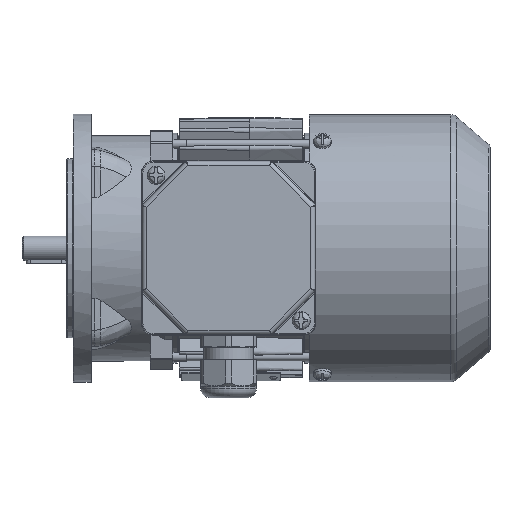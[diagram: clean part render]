
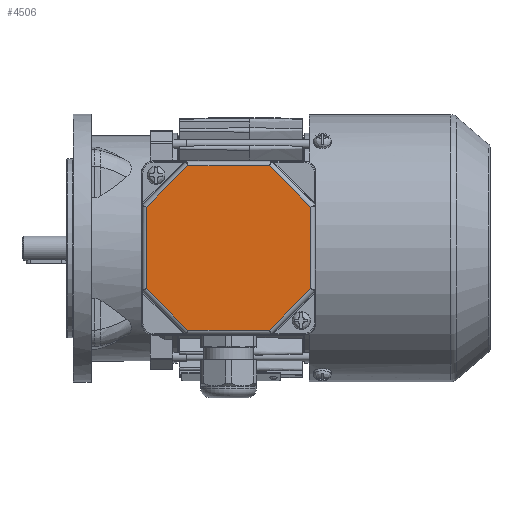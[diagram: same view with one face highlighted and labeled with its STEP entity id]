
A CAD part, top view. The second image highlights one B-rep face of the part: STEP entity #4506.
In plain terms, the highlighted planar face has unit normal (0, 0, 1).
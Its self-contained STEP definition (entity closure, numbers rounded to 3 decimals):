
#4506 = ADVANCED_FACE( '', ( #9431 ), #9432, .T. );
#9431 = FACE_OUTER_BOUND( '', #20780, .T. );
#9432 = PLANE( '', #20781 );
#20780 = EDGE_LOOP( '', ( #35208, #35209, #35210, #35211, #35212, #35213, #35214, #35215 ) );
#20781 = AXIS2_PLACEMENT_3D( '', #35216, #35217, #35218 );
#35208 = ORIENTED_EDGE( '', *, *, #43298, .T. );
#35209 = ORIENTED_EDGE( '', *, *, #46687, .T. );
#35210 = ORIENTED_EDGE( '', *, *, #43588, .T. );
#35211 = ORIENTED_EDGE( '', *, *, #46688, .T. );
#35212 = ORIENTED_EDGE( '', *, *, #42748, .T. );
#35213 = ORIENTED_EDGE( '', *, *, #45795, .T. );
#35214 = ORIENTED_EDGE( '', *, *, #46689, .T. );
#35215 = ORIENTED_EDGE( '', *, *, #46400, .T. );
#35216 = CARTESIAN_POINT( '', ( -39., 39., 12. ) );
#35217 = DIRECTION( '', ( 0., 0., 1. ) );
#35218 = DIRECTION( '', ( 1., 0., 0. ) );
#42748 = EDGE_CURVE( '', #49619, #49620, #49621, .F. );
#43298 = EDGE_CURVE( '', #50563, #50561, #50564, .F. );
#43588 = EDGE_CURVE( '', #49029, #51048, #51049, .F. );
#45795 = EDGE_CURVE( '', #49620, #54483, #54484, .T. );
#46400 = EDGE_CURVE( '', #55316, #50563, #55317, .T. );
#46687 = EDGE_CURVE( '', #50561, #49029, #55694, .T. );
#46688 = EDGE_CURVE( '', #51048, #49619, #55695, .T. );
#46689 = EDGE_CURVE( '', #54483, #55316, #55696, .F. );
#49029 = VERTEX_POINT( '', #58890 );
#49619 = VERTEX_POINT( '', #60351 );
#49620 = VERTEX_POINT( '', #60352 );
#49621 = LINE( '', #60353, #60354 );
#50561 = VERTEX_POINT( '', #62834 );
#50563 = VERTEX_POINT( '', #62836 );
#50564 = LINE( '', #62837, #62838 );
#51048 = VERTEX_POINT( '', #63945 );
#51049 = LINE( '', #63946, #63947 );
#54483 = VERTEX_POINT( '', #71180 );
#54484 = LINE( '', #71181, #71182 );
#55316 = VERTEX_POINT( '', #73236 );
#55317 = LINE( '', #73237, #73238 );
#55694 = LINE( '', #74067, #74068 );
#55695 = LINE( '', #74069, #74070 );
#55696 = LINE( '', #74071, #74072 );
#58890 = CARTESIAN_POINT( '', ( 18.255, 36.825, 12. ) );
#60351 = CARTESIAN_POINT( '', ( -36.825, 18.255, 12. ) );
#60352 = CARTESIAN_POINT( '', ( -36.825, -18.255, 12. ) );
#60353 = CARTESIAN_POINT( '', ( -36.825, -19.069, 12. ) );
#60354 = VECTOR( '', #78446, 1000. );
#62834 = CARTESIAN_POINT( '', ( 36.825, 18.255, 12. ) );
#62836 = CARTESIAN_POINT( '', ( 36.825, -18.255, 12. ) );
#62837 = CARTESIAN_POINT( '', ( 36.825, 19.069, 12. ) );
#62838 = VECTOR( '', #79053, 1000. );
#63945 = CARTESIAN_POINT( '', ( -18.255, 36.825, 12. ) );
#63946 = CARTESIAN_POINT( '', ( -19.069, 36.825, 12. ) );
#63947 = VECTOR( '', #79367, 1000. );
#71180 = CARTESIAN_POINT( '', ( -18.255, -36.825, 12. ) );
#71181 = CARTESIAN_POINT( '', ( -17.679, -37.401, 12. ) );
#71182 = VECTOR( '', #81918, 1000. );
#73236 = CARTESIAN_POINT( '', ( 18.255, -36.825, 12. ) );
#73237 = CARTESIAN_POINT( '', ( 37.401, -17.679, 12. ) );
#73238 = VECTOR( '', #82561, 1000. );
#74067 = CARTESIAN_POINT( '', ( 17.679, 37.401, 12. ) );
#74068 = VECTOR( '', #82849, 1000. );
#74069 = CARTESIAN_POINT( '', ( -37.401, 17.679, 12. ) );
#74070 = VECTOR( '', #82850, 1000. );
#74071 = CARTESIAN_POINT( '', ( 19.069, -36.825, 12. ) );
#74072 = VECTOR( '', #82851, 1000. );
#78446 = DIRECTION( '', ( 0., 1., 0. ) );
#79053 = DIRECTION( '', ( 0., -1., 0. ) );
#79367 = DIRECTION( '', ( 1., 0., 0. ) );
#81918 = DIRECTION( '', ( 0.707, -0.707, 0. ) );
#82561 = DIRECTION( '', ( 0.707, 0.707, 0. ) );
#82849 = DIRECTION( '', ( -0.707, 0.707, 0. ) );
#82850 = DIRECTION( '', ( -0.707, -0.707, 0. ) );
#82851 = DIRECTION( '', ( -1., 0., 0. ) );
